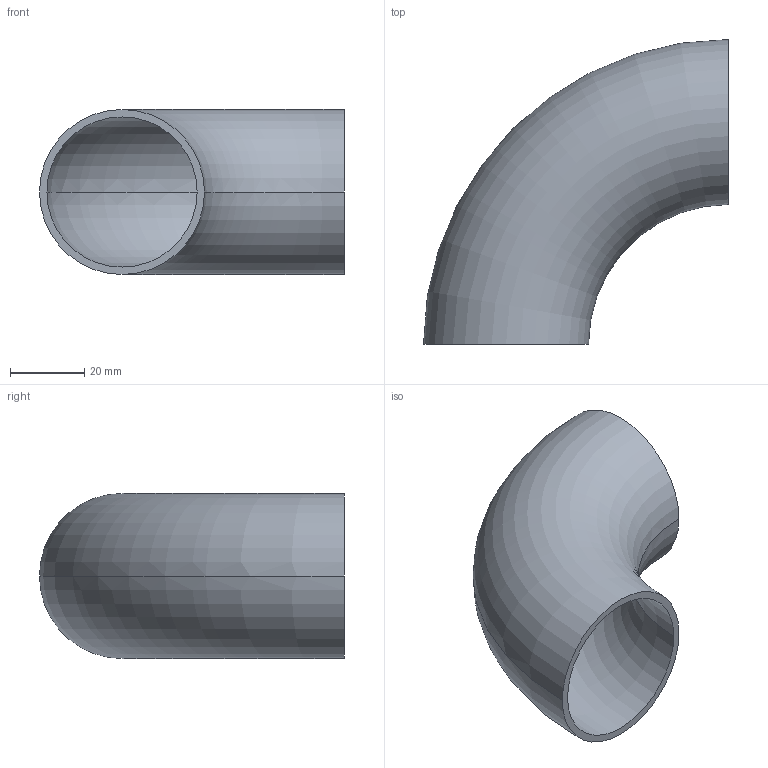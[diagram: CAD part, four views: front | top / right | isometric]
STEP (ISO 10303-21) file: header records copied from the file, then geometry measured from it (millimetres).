
FILE_DESCRIPTION (( 'STEP AP203' ), '1' );
FILE_NAME ('OT212-40-44_5x2_OSTP.step', '2020-12-16T02:16:55', ( '' ), ( '' ), 'SwSTEP 2.0', 'SolidWorks 2014', '' );
FILE_SCHEMA (( 'CONFIG_CONTROL_DESIGN' ));
Length unit declared in the file: millimetre
Products named in the file (1): OT212-40-44_5x2_OSTP
Bounding box: 82.25 x 82.25 x 44.5 mm (x, y, z)
Volume: 25167.5 mm3; surface area: 25701.6 mm2
Topology: 1 solids, 1 shells, 6 faces, 12 edges, 8 vertices
Faces by surface type: torus 4, plane 2
Entity records: 249 total; most frequent: DIRECTION 38, CARTESIAN_POINT 27, ORIENTED_EDGE 24, AXIS2_PLACEMENT_3D 19, EDGE_CURVE 12, CIRCLE 12, VERTEX_POINT 8, EDGE_LOOP 8
